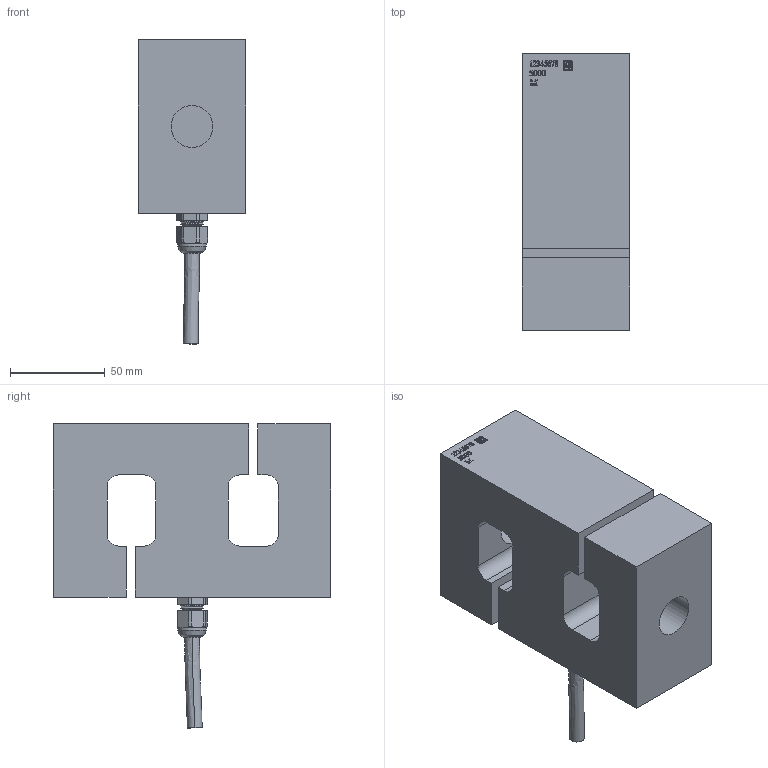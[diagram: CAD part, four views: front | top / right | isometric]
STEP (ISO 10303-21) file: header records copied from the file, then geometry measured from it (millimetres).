
FILE_DESCRIPTION(/* description */ (''),/* implementation_level */ '2;1');
FILE_NAME(/* name */ '//pdmuksvr/e/Marketing 2.0/1. Assets/10. CAD/Dumb CAD/ULB/ulb-5000kg-outline.step',/* time_stamp */ '2021-11-09T08:38:13+00:00',/* author */ (''),/* organization */ (''),/* preprocessor_version */ 'ST-DEVELOPER v18.1',/* originating_system */ 'Autodesk Translation Framework v10.10.0.1391',/* authorisation */ '');
FILE_SCHEMA (('AUTOMOTIVE_DESIGN { 1 0 10303 214 3 1 1 }'));
Length unit declared in the file: millimetre
Products named in the file (4): ulb-5000kg-outline; cableGland; cable; mainBody
Assembly tree (3 placements, depth 2):
  ulb-5000kg-outline
    cableGland
    cable
    mainBody
Bounding box: 56.39 x 146.05 x 160.12 mm (x, y, z)
Volume: 615372.9 mm3; surface area: 74876.9 mm2
Topology: 4 solids, 4 shells, 498 faces, 1239 edges, 819 vertices
Faces by surface type: plane 189, bspline 184, cylinder 74, cone 49, torus 2
Full cylindrical faces by diameter (mm): 0.5 x47, 7.62 x2, 9.335 x2, 14.986 x1, 22 x2
Entity records: 20691 total; most frequent: CARTESIAN_POINT 9734, ORIENTED_EDGE 2478, DIRECTION 1743, EDGE_CURVE 1239, VERTEX_POINT 819, LINE 625, VECTOR 625, EDGE_LOOP 576
